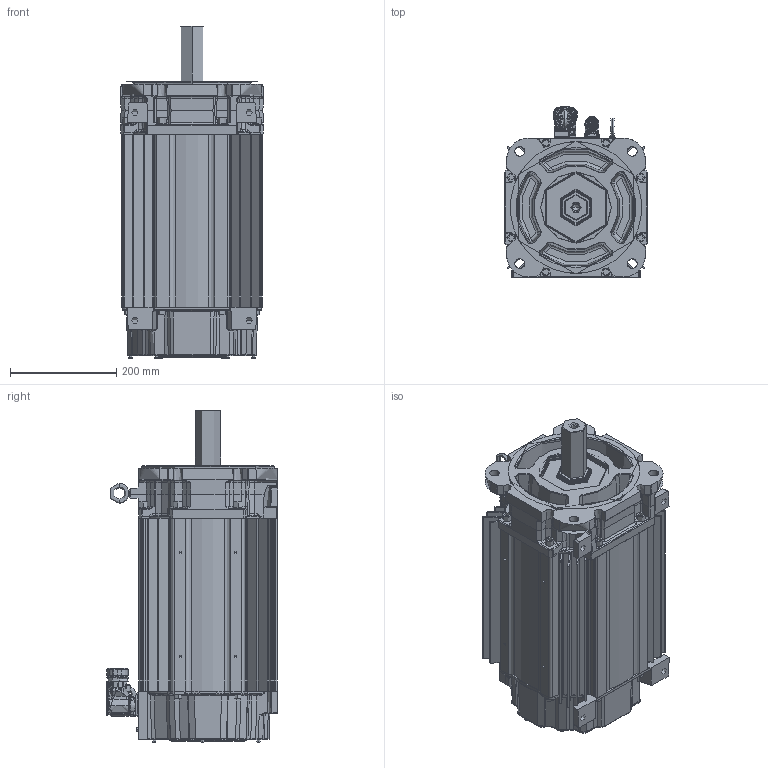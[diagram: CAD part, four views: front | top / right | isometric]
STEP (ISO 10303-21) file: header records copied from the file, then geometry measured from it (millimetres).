
FILE_DESCRIPTION((''),'2;1');
FILE_NAME('10005239736_ASM','2020-01-16T11:15:15',('VThimma'),('Rockwell Automation'),'CREO PARAMETRIC BY PTC INC, 2017380','CREO PARAMETRIC BY PTC INC, 2017380','');
FILE_SCHEMA(('CONFIG_CONTROL_DESIGN','SHAPE_APPEARANCE_LAYERS_GROUPS'));
Products named in the file (25): 10001441958; 10001404634_AF0; 10001404629_AF6; 10001404635_ASM; 10001585735; 10001442012_ASM; 10001439798_KEYLESS; 10001440031_ASM; 10001405269_AF0; 10001405367_ASM; 10001586887; 0002-5004; 10001609981; 10001737030; 10000014325-2; 10000014331; 10000014332-460; 10000014330-460_ASM; 10000172464; PWR40CONN-BRK; PWR40BASE; 10000806125_ASM; 221404-Q12; 10001408124; 10005239736_ASM
Assembly tree (50 placements, depth 4):
  10005239736_ASM
    10001442012_ASM
      10001441958
      10001404635_ASM
        10001404634_AF0
        10001404629_AF6
      10001585735  x8
    10001440031_ASM
      10001439798_KEYLESS
    10001405367_ASM
      10001405269_AF0
    10001586887  x7
    0002-5004  x2
    10001609981
    10001737030
    10000014330-460_ASM
      10000014325-2
      10000014331
      10000014332-460
    10000172464  x4
    10000806125_ASM
      PWR40CONN-BRK
      PWR40BASE
    221404-Q12  x10
    10001408124
Bounding box: 269.49 x 324.05 x 626.33 mm (x, y, z)
Topology: 0 solids, 61 shells, 7045 faces, 18322 edges, 11391 vertices
Faces by surface type: cylinder 2227, plane 1650, bspline 1505, torus 877, cone 580, sphere 163, extrusion 42, revolution 1
Entity records: 356972 total; most frequent: CARTESIAN_POINT 136552, ORIENTED_EDGE 30157, DIRECTION 25482, PRESENTATION_STYLE_ASSIGNMENT 20938, STYLED_ITEM 20938, CURVE_STYLE 15188, EDGE_CURVE 15146, AXIS2_PLACEMENT_3D 10340
